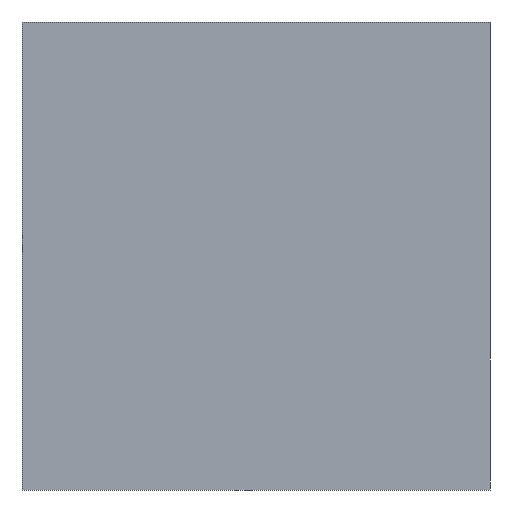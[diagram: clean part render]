
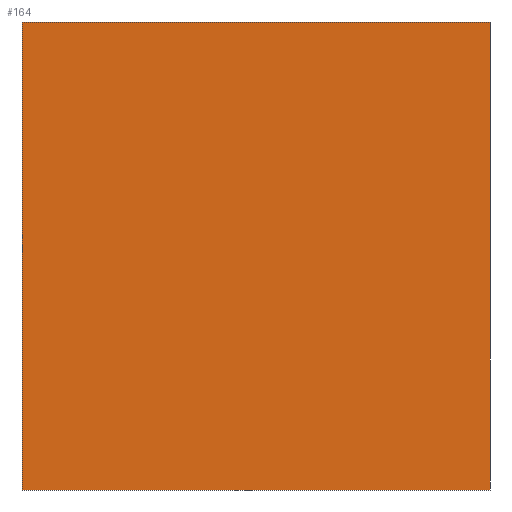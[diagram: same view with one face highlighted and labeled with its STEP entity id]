
A CAD part, front view. The second image highlights one B-rep face of the part: STEP entity #164.
In plain terms, the highlighted planar face has unit normal (0, -1, 0).
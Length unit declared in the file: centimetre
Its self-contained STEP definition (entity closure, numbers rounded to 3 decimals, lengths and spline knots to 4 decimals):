
#5 = VERTEX_POINT ( 'NONE', #199 ) ;
#19 = LINE ( 'NONE', #51, #53 ) ;
#31 = CARTESIAN_POINT ( 'NONE',  ( 0., 0., 1000. ) ) ;
#51 = CARTESIAN_POINT ( 'NONE',  ( 0., 0., 0. ) ) ;
#53 = VECTOR ( 'NONE', #233, 100. ) ;
#55 = CARTESIAN_POINT ( 'NONE',  ( 1000., 0., 1000. ) ) ;
#59 = EDGE_CURVE ( 'NONE', #5, #129, #19, .T. ) ;
#65 = DIRECTION ( 'NONE',  ( 1., 0., 0. ) ) ;
#73 = VERTEX_POINT ( 'NONE', #251 ) ;
#81 = DIRECTION ( 'NONE',  ( 0., 0., -1. ) ) ;
#88 = EDGE_LOOP ( 'NONE', ( #210, #342, #116, #130 ) ) ;
#94 = DIRECTION ( 'NONE',  ( 0., 1., 0. ) ) ;
#104 = EDGE_CURVE ( 'NONE', #256, #73, #285, .T. ) ;
#116 = ORIENTED_EDGE ( 'NONE', *, *, #104, .F. ) ;
#129 = VERTEX_POINT ( 'NONE', #158 ) ;
#130 = ORIENTED_EDGE ( 'NONE', *, *, #194, .T. ) ;
#158 = CARTESIAN_POINT ( 'NONE',  ( 1000., 0., 0. ) ) ;
#164 = ADVANCED_FACE ( 'NONE', ( #258 ), #378, .F. ) ;
#180 = EDGE_CURVE ( 'NONE', #73, #129, #305, .T. ) ;
#194 = EDGE_CURVE ( 'NONE', #256, #5, #301, .T. ) ;
#199 = CARTESIAN_POINT ( 'NONE',  ( 0., 0., 0. ) ) ;
#210 = ORIENTED_EDGE ( 'NONE', *, *, #59, .T. ) ;
#213 = VECTOR ( 'NONE', #65, 100. ) ;
#219 = VECTOR ( 'NONE', #393, 100. ) ;
#231 = VECTOR ( 'NONE', #81, 100. ) ;
#233 = DIRECTION ( 'NONE',  ( 1., 0., 0. ) ) ;
#251 = CARTESIAN_POINT ( 'NONE',  ( 1000., 0., 1000. ) ) ;
#256 = VERTEX_POINT ( 'NONE', #360 ) ;
#258 = FACE_OUTER_BOUND ( 'NONE', #88, .T. ) ;
#285 = LINE ( 'NONE', #31, #213 ) ;
#301 = LINE ( 'NONE', #335, #231 ) ;
#305 = LINE ( 'NONE', #55, #219 ) ;
#335 = CARTESIAN_POINT ( 'NONE',  ( 0., 0., 1000. ) ) ;
#338 = DIRECTION ( 'NONE',  ( 0., 0., 1. ) ) ;
#342 = ORIENTED_EDGE ( 'NONE', *, *, #180, .F. ) ;
#355 = AXIS2_PLACEMENT_3D ( 'NONE', #370, #94, #338 ) ;
#360 = CARTESIAN_POINT ( 'NONE',  ( 0., 0., 1000. ) ) ;
#370 = CARTESIAN_POINT ( 'NONE',  ( 0., 0., 1000. ) ) ;
#378 = PLANE ( 'NONE',  #355 ) ;
#393 = DIRECTION ( 'NONE',  ( 0., 0., -1. ) ) ;
